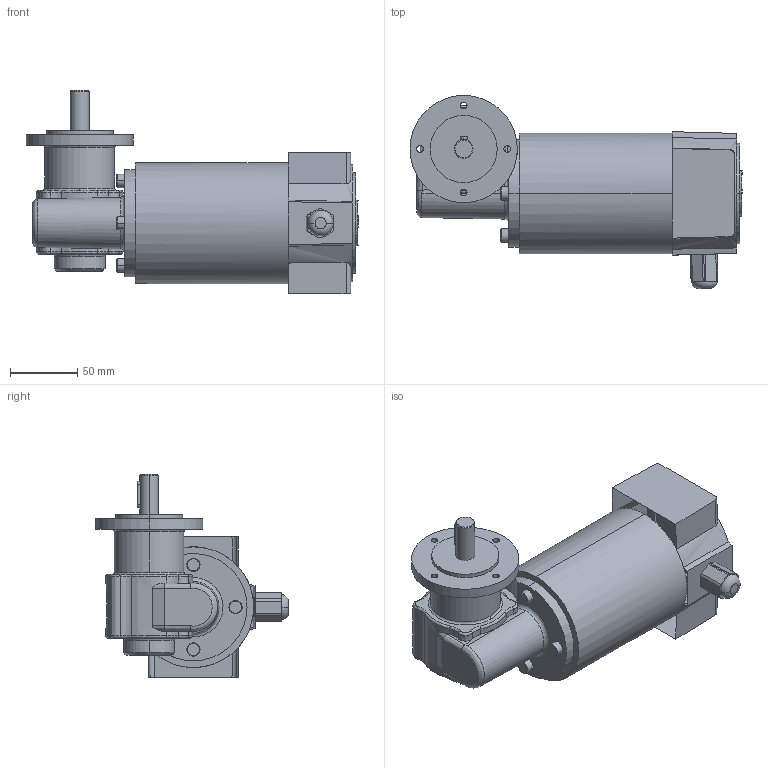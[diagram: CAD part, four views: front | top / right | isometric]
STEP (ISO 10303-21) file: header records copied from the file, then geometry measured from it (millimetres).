
FILE_DESCRIPTION(('OneSpaceDesigner STEP Export'),'2;1');
FILE_NAME('EPG21_GF132-10.stp','2008-07-10T 8:17:53',(''),(''),'OneSpace Designer STEP processor (Jan. 2003) for AP214(CD)(Solid Model)','OneSpace Designer 12.01D 09-Jul-2004 (C) CoCreate Software GmbH','');
FILE_SCHEMA(('AUTOMOTIVE_DESIGN_CC2 {1 2 10303 214 -1 1 5 1}'));
Length unit declared in the file: millimetre
Products named in the file (2): EPG21_GF132-10
Assembly tree (1 placements, depth 2):
  EPG21_GF132-10
    EPG21_GF132-10
Bounding box: 247.5 x 143.99 x 151.5 mm (x, y, z)
Volume: 1528136.9 mm3; surface area: 104483.2 mm2
Topology: 1 solids, 1 shells, 185 faces, 470 edges, 302 vertices
Faces by surface type: plane 51, cylinder 50, bspline 41, extrusion 25, cone 10, torus 8
Entity records: 16136 total; most frequent: CARTESIAN_POINT 12374, ORIENTED_EDGE 940, DIRECTION 486, EDGE_CURVE 470, VERTEX_POINT 302, EDGE_LOOP 208, FACE_OUTER_BOUND 185, ADVANCED_FACE 185
